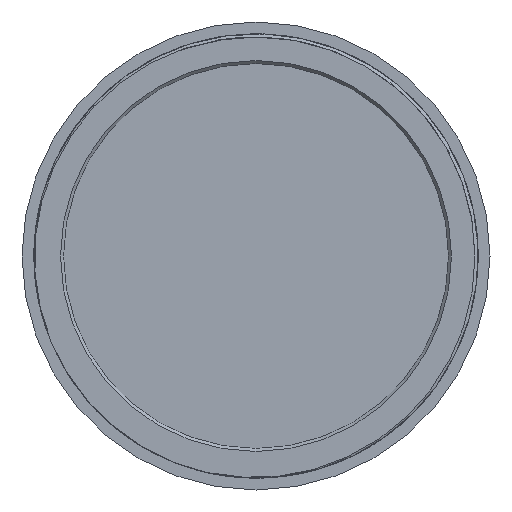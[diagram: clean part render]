
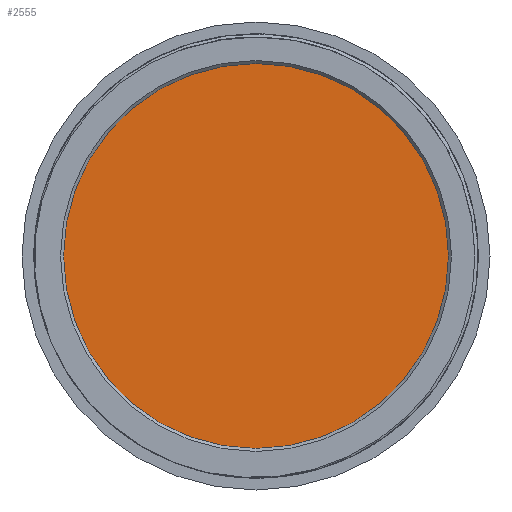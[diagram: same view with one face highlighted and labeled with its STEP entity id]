
A CAD part, front view. The second image highlights one B-rep face of the part: STEP entity #2555.
In plain terms, the highlighted planar face has unit normal (0, -1, 0).
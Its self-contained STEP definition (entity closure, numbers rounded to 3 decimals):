
#162 = CARTESIAN_POINT ( 'NONE',  ( 0., 2.5, 17. ) ) ;
#343 = PLANE ( 'NONE',  #1653 ) ;
#365 = VERTEX_POINT ( 'NONE', #162 ) ;
#710 = DIRECTION ( 'NONE',  ( 0., 0., 1. ) ) ;
#744 = CARTESIAN_POINT ( 'NONE',  ( 0., 2.5, -17. ) ) ;
#951 = DIRECTION ( 'NONE',  ( 0., 1., 0. ) ) ;
#1045 = CARTESIAN_POINT ( 'NONE',  ( 0., 2.5, 0. ) ) ;
#1247 = CARTESIAN_POINT ( 'NONE',  ( 0., 2.5, 0. ) ) ;
#1262 = DIRECTION ( 'NONE',  ( 0., 1., 0. ) ) ;
#1393 = VERTEX_POINT ( 'NONE', #744 ) ;
#1462 = FACE_OUTER_BOUND ( 'NONE', #2460, .T. ) ;
#1516 = EDGE_CURVE ( 'NONE', #1393, #365, #2523, .T. ) ;
#1521 = DIRECTION ( 'NONE',  ( 0., 0., 1. ) ) ;
#1570 = ORIENTED_EDGE ( 'NONE', *, *, #2757, .F. ) ;
#1605 = CIRCLE ( 'NONE', #2803, 17. ) ;
#1653 = AXIS2_PLACEMENT_3D ( 'NONE', #1247, #951, #1872 ) ;
#1872 = DIRECTION ( 'NONE',  ( 0., 0., 1. ) ) ;
#2062 = CARTESIAN_POINT ( 'NONE',  ( 0., 2.5, 0. ) ) ;
#2287 = DIRECTION ( 'NONE',  ( 0., 1., 0. ) ) ;
#2460 = EDGE_LOOP ( 'NONE', ( #2746, #1570 ) ) ;
#2523 = CIRCLE ( 'NONE', #2946, 17. ) ;
#2555 = ADVANCED_FACE ( 'NONE', ( #1462 ), #343, .F. ) ;
#2746 = ORIENTED_EDGE ( 'NONE', *, *, #1516, .F. ) ;
#2757 = EDGE_CURVE ( 'NONE', #365, #1393, #1605, .T. ) ;
#2803 = AXIS2_PLACEMENT_3D ( 'NONE', #2062, #2287, #710 ) ;
#2946 = AXIS2_PLACEMENT_3D ( 'NONE', #1045, #1262, #1521 ) ;
